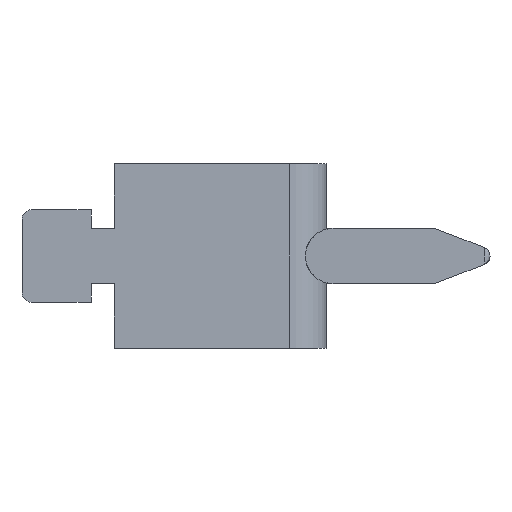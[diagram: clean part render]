
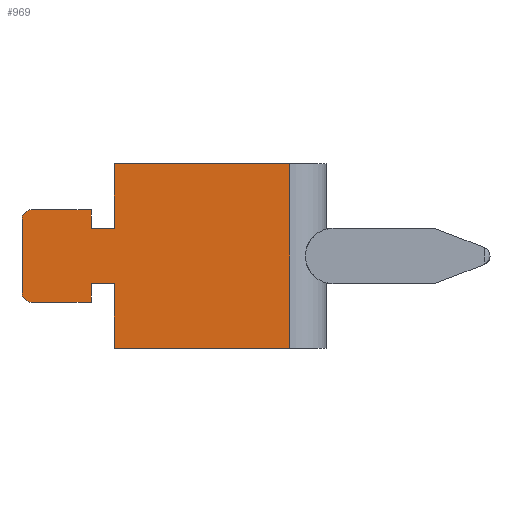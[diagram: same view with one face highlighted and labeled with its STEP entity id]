
A CAD part, left-side view. The second image highlights one B-rep face of the part: STEP entity #969.
In plain terms, the highlighted planar face has unit normal (-1, 0, 0).
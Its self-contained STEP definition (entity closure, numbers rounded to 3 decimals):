
#940 = ORIENTED_EDGE ( 'NONE', *, *, #941, .F. ) ;
#941 = EDGE_CURVE ( 'NONE', #942, #1109, #4954, .T. ) ;
#942 = VERTEX_POINT ( 'NONE', #4950 ) ;
#949 = ORIENTED_EDGE ( 'NONE', *, *, #950, .T. ) ;
#950 = EDGE_CURVE ( 'NONE', #942, #951, #5052, .T. ) ;
#951 = VERTEX_POINT ( 'NONE', #5048 ) ;
#952 = ORIENTED_EDGE ( 'NONE', *, *, #1080, .F. ) ;
#965 = EDGE_CURVE ( 'NONE', #966, #1072, #5027, .T. ) ;
#966 = VERTEX_POINT ( 'NONE', #5023 ) ;
#969 = ADVANCED_FACE ( 'NONE', ( #5017 ), #5087, .F. ) ;
#970 = EDGE_LOOP ( 'NONE', ( #971, #972, #1073, #1076, #1079, #940, #949, #952, #1082, #1093, #1096, #1026, #1220, #1002 ) ) ;
#971 = ORIENTED_EDGE ( 'NONE', *, *, #965, .T. ) ;
#972 = ORIENTED_EDGE ( 'NONE', *, *, #973, .T. ) ;
#973 = EDGE_CURVE ( 'NONE', #1072, #974, #5082, .T. ) ;
#974 = VERTEX_POINT ( 'NONE', #5294 ) ;
#1000 = EDGE_CURVE ( 'NONE', #1001, #1064, #5227, .T. ) ;
#1001 = VERTEX_POINT ( 'NONE', #5223 ) ;
#1002 = ORIENTED_EDGE ( 'NONE', *, *, #1179, .T. ) ;
#1026 = ORIENTED_EDGE ( 'NONE', *, *, #1230, .F. ) ;
#1064 = VERTEX_POINT ( 'NONE', #5502 ) ;
#1072 = VERTEX_POINT ( 'NONE', #5546 ) ;
#1073 = ORIENTED_EDGE ( 'NONE', *, *, #1074, .F. ) ;
#1074 = EDGE_CURVE ( 'NONE', #1075, #974, #5545, .T. ) ;
#1075 = VERTEX_POINT ( 'NONE', #5541 ) ;
#1076 = ORIENTED_EDGE ( 'NONE', *, *, #1077, .F. ) ;
#1077 = EDGE_CURVE ( 'NONE', #1078, #1075, #5540, .T. ) ;
#1078 = VERTEX_POINT ( 'NONE', #5536 ) ;
#1079 = ORIENTED_EDGE ( 'NONE', *, *, #1108, .F. ) ;
#1080 = EDGE_CURVE ( 'NONE', #1081, #951, #5432, .T. ) ;
#1081 = VERTEX_POINT ( 'NONE', #5428 ) ;
#1082 = ORIENTED_EDGE ( 'NONE', *, *, #1083, .F. ) ;
#1083 = EDGE_CURVE ( 'NONE', #1084, #1081, #5427, .T. ) ;
#1084 = VERTEX_POINT ( 'NONE', #5423 ) ;
#1093 = ORIENTED_EDGE ( 'NONE', *, *, #1094, .F. ) ;
#1094 = EDGE_CURVE ( 'NONE', #1095, #1084, #5411, .T. ) ;
#1095 = VERTEX_POINT ( 'NONE', #5407 ) ;
#1096 = ORIENTED_EDGE ( 'NONE', *, *, #1097, .F. ) ;
#1097 = EDGE_CURVE ( 'NONE', #1098, #1095, #5406, .T. ) ;
#1098 = VERTEX_POINT ( 'NONE', #5402 ) ;
#1108 = EDGE_CURVE ( 'NONE', #1109, #1078, #5370, .T. ) ;
#1109 = VERTEX_POINT ( 'NONE', #5361 ) ;
#1179 = EDGE_CURVE ( 'NONE', #1001, #966, #5680, .T. ) ;
#1220 = ORIENTED_EDGE ( 'NONE', *, *, #1000, .F. ) ;
#1230 = EDGE_CURVE ( 'NONE', #1064, #1098, #5944, .T. ) ;
#4950 = CARTESIAN_POINT ( 'NONE',  ( -33.5, 21., -10. ) ) ;
#4951 = DIRECTION ( 'NONE',  ( 0., 0., 1. ) ) ;
#4952 = VECTOR ( 'NONE', #4951, 1000. ) ;
#4953 = CARTESIAN_POINT ( 'NONE',  ( -33.5, 21., -10. ) ) ;
#4954 = LINE ( 'NONE', #4953, #4952 ) ;
#5017 = FACE_OUTER_BOUND ( 'NONE', #970, .T. ) ;
#5023 = CARTESIAN_POINT ( 'NONE',  ( -33.5, 31., 4. ) ) ;
#5024 = DIRECTION ( 'NONE',  ( 0., 0., -1. ) ) ;
#5025 = VECTOR ( 'NONE', #5024, 1000. ) ;
#5026 = CARTESIAN_POINT ( 'NONE',  ( -33.5, 31., 10. ) ) ;
#5027 = LINE ( 'NONE', #5026, #5025 ) ;
#5048 = CARTESIAN_POINT ( 'NONE',  ( -33.5, 2., -10. ) ) ;
#5049 = DIRECTION ( 'NONE',  ( 0., -1., 0. ) ) ;
#5050 = VECTOR ( 'NONE', #5049, 1000. ) ;
#5051 = CARTESIAN_POINT ( 'NONE',  ( -33.5, 2., -10. ) ) ;
#5052 = LINE ( 'NONE', #5051, #5050 ) ;
#5078 = DIRECTION ( 'NONE',  ( 0., 0., -1. ) ) ;
#5079 = DIRECTION ( 'NONE',  ( -1., 0., 0. ) ) ;
#5080 = CARTESIAN_POINT ( 'NONE',  ( -33.5, 30., -4. ) ) ;
#5081 = AXIS2_PLACEMENT_3D ( 'NONE', #5080, #5079, #5078 ) ;
#5082 = CIRCLE ( 'NONE', #5081, 1. ) ;
#5083 = DIRECTION ( 'NONE',  ( 0., 0., -1. ) ) ;
#5084 = DIRECTION ( 'NONE',  ( 1., 0., 0. ) ) ;
#5085 = CARTESIAN_POINT ( 'NONE',  ( -33.5, 2., 10. ) ) ;
#5086 = AXIS2_PLACEMENT_3D ( 'NONE', #5085, #5084, #5083 ) ;
#5087 = PLANE ( 'NONE',  #5086 ) ;
#5223 = CARTESIAN_POINT ( 'NONE',  ( -33.5, 30., 5. ) ) ;
#5224 = DIRECTION ( 'NONE',  ( 0., -1., 0. ) ) ;
#5225 = VECTOR ( 'NONE', #5224, 1000. ) ;
#5226 = CARTESIAN_POINT ( 'NONE',  ( -33.5, 31., 5. ) ) ;
#5227 = LINE ( 'NONE', #5226, #5225 ) ;
#5294 = CARTESIAN_POINT ( 'NONE',  ( -33.5, 30., -5. ) ) ;
#5361 = CARTESIAN_POINT ( 'NONE',  ( -33.5, 21., -3. ) ) ;
#5362 = DIRECTION ( 'NONE',  ( 0., 1., 0. ) ) ;
#5363 = VECTOR ( 'NONE', #5362, 1000. ) ;
#5364 = CARTESIAN_POINT ( 'NONE',  ( -33.5, 23.5, -3. ) ) ;
#5370 = LINE ( 'NONE', #5364, #5363 ) ;
#5402 = CARTESIAN_POINT ( 'NONE',  ( -33.5, 23.5, 3. ) ) ;
#5403 = DIRECTION ( 'NONE',  ( 0., -1., 0. ) ) ;
#5404 = VECTOR ( 'NONE', #5403, 1000. ) ;
#5405 = CARTESIAN_POINT ( 'NONE',  ( -33.5, 23.5, 3. ) ) ;
#5406 = LINE ( 'NONE', #5405, #5404 ) ;
#5407 = CARTESIAN_POINT ( 'NONE',  ( -33.5, 21., 3. ) ) ;
#5408 = DIRECTION ( 'NONE',  ( 0., 0., 1. ) ) ;
#5409 = VECTOR ( 'NONE', #5408, 1000. ) ;
#5410 = CARTESIAN_POINT ( 'NONE',  ( -33.5, 21., 10. ) ) ;
#5411 = LINE ( 'NONE', #5410, #5409 ) ;
#5423 = CARTESIAN_POINT ( 'NONE',  ( -33.5, 21., 10. ) ) ;
#5424 = DIRECTION ( 'NONE',  ( 0., -1., 0. ) ) ;
#5425 = VECTOR ( 'NONE', #5424, 1000. ) ;
#5426 = CARTESIAN_POINT ( 'NONE',  ( -33.5, 2., 10. ) ) ;
#5427 = LINE ( 'NONE', #5426, #5425 ) ;
#5428 = CARTESIAN_POINT ( 'NONE',  ( -33.5, 2., 10. ) ) ;
#5429 = DIRECTION ( 'NONE',  ( 0., 0., -1. ) ) ;
#5430 = VECTOR ( 'NONE', #5429, 1000. ) ;
#5431 = CARTESIAN_POINT ( 'NONE',  ( -33.5, 2., 10. ) ) ;
#5432 = LINE ( 'NONE', #5431, #5430 ) ;
#5502 = CARTESIAN_POINT ( 'NONE',  ( -33.5, 23.5, 5. ) ) ;
#5536 = CARTESIAN_POINT ( 'NONE',  ( -33.5, 23.5, -3. ) ) ;
#5537 = DIRECTION ( 'NONE',  ( 0., 0., -1. ) ) ;
#5538 = VECTOR ( 'NONE', #5537, 1000. ) ;
#5539 = CARTESIAN_POINT ( 'NONE',  ( -33.5, 23.5, -5. ) ) ;
#5540 = LINE ( 'NONE', #5539, #5538 ) ;
#5541 = CARTESIAN_POINT ( 'NONE',  ( -33.5, 23.5, -5. ) ) ;
#5542 = DIRECTION ( 'NONE',  ( 0., 1., 0. ) ) ;
#5543 = VECTOR ( 'NONE', #5542, 1000. ) ;
#5544 = CARTESIAN_POINT ( 'NONE',  ( -33.5, 31., -5. ) ) ;
#5545 = LINE ( 'NONE', #5544, #5543 ) ;
#5546 = CARTESIAN_POINT ( 'NONE',  ( -33.5, 31., -4. ) ) ;
#5676 = DIRECTION ( 'NONE',  ( 0., 0., -1. ) ) ;
#5677 = DIRECTION ( 'NONE',  ( -1., 0., 0. ) ) ;
#5678 = CARTESIAN_POINT ( 'NONE',  ( -33.5, 30., 4. ) ) ;
#5679 = AXIS2_PLACEMENT_3D ( 'NONE', #5678, #5677, #5676 ) ;
#5680 = CIRCLE ( 'NONE', #5679, 1. ) ;
#5941 = DIRECTION ( 'NONE',  ( 0., 0., -1. ) ) ;
#5942 = VECTOR ( 'NONE', #5941, 1000. ) ;
#5943 = CARTESIAN_POINT ( 'NONE',  ( -33.5, 23.5, 5. ) ) ;
#5944 = LINE ( 'NONE', #5943, #5942 ) ;
